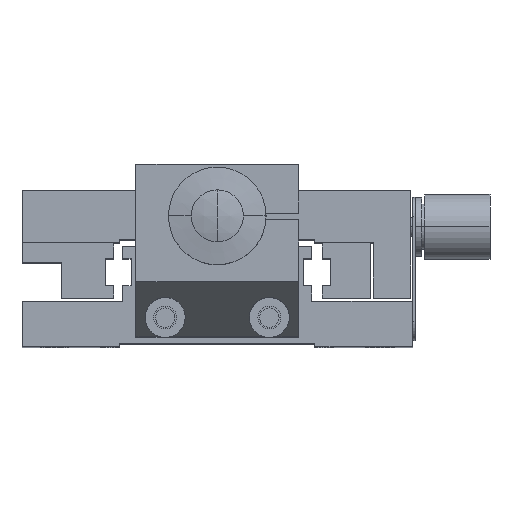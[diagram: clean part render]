
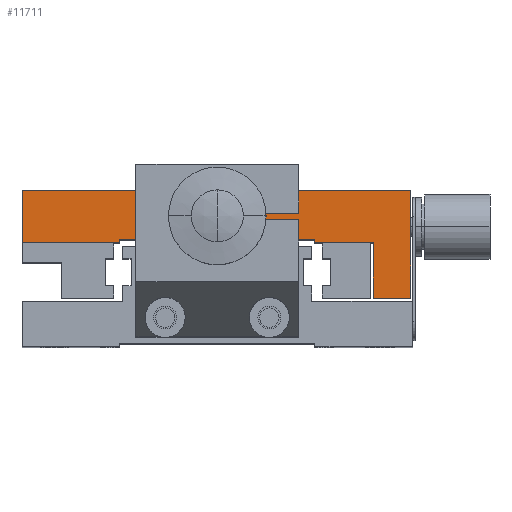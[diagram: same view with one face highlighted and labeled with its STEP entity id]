
A CAD part, top view. The second image highlights one B-rep face of the part: STEP entity #11711.
In plain terms, the highlighted planar face has unit normal (0, 0, 1).
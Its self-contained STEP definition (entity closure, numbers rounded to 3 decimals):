
#223 = EDGE_LOOP ( 'NONE', ( #692, #693 ) ) ;
#280 = EDGE_LOOP ( 'NONE', ( #694, #695, #696, #697, #698, #699, #700, #701, #702, #703 ) ) ;
#692 = ORIENTED_EDGE ( 'NONE', *, *, #1626, .F. ) ;
#693 = ORIENTED_EDGE ( 'NONE', *, *, #1559, .F. ) ;
#694 = ORIENTED_EDGE ( 'NONE', *, *, #1566, .T. ) ;
#695 = ORIENTED_EDGE ( 'NONE', *, *, #1570, .T. ) ;
#696 = ORIENTED_EDGE ( 'NONE', *, *, #1574, .T. ) ;
#697 = ORIENTED_EDGE ( 'NONE', *, *, #1577, .T. ) ;
#698 = ORIENTED_EDGE ( 'NONE', *, *, #1583, .T. ) ;
#699 = ORIENTED_EDGE ( 'NONE', *, *, #1588, .T. ) ;
#700 = ORIENTED_EDGE ( 'NONE', *, *, #1591, .T. ) ;
#701 = ORIENTED_EDGE ( 'NONE', *, *, #1600, .T. ) ;
#702 = ORIENTED_EDGE ( 'NONE', *, *, #1618, .T. ) ;
#703 = ORIENTED_EDGE ( 'NONE', *, *, #1625, .T. ) ;
#1244 = VERTEX_POINT ( 'NONE', #4287 ) ;
#1246 = VERTEX_POINT ( 'NONE', #4289 ) ;
#1247 = VERTEX_POINT ( 'NONE', #4290 ) ;
#1248 = VERTEX_POINT ( 'NONE', #4291 ) ;
#1249 = VERTEX_POINT ( 'NONE', #4292 ) ;
#1251 = VERTEX_POINT ( 'NONE', #4294 ) ;
#1253 = VERTEX_POINT ( 'NONE', #4296 ) ;
#1255 = VERTEX_POINT ( 'NONE', #4298 ) ;
#1256 = VERTEX_POINT ( 'NONE', #4299 ) ;
#1257 = VERTEX_POINT ( 'NONE', #4300 ) ;
#1261 = VERTEX_POINT ( 'NONE', #4304 ) ;
#1264 = VERTEX_POINT ( 'NONE', #4307 ) ;
#1559 = EDGE_CURVE ( 'NONE', #1244, #1246, #3701, .T. ) ;
#1566 = EDGE_CURVE ( 'NONE', #1248, #1247, #3714, .T. ) ;
#1570 = EDGE_CURVE ( 'NONE', #1247, #1249, #3718, .T. ) ;
#1574 = EDGE_CURVE ( 'NONE', #1249, #1251, #3728, .T. ) ;
#1577 = EDGE_CURVE ( 'NONE', #1251, #1255, #3731, .T. ) ;
#1583 = EDGE_CURVE ( 'NONE', #1255, #1256, #3743, .T. ) ;
#1588 = EDGE_CURVE ( 'NONE', #1256, #1257, #3751, .T. ) ;
#1591 = EDGE_CURVE ( 'NONE', #1257, #1261, #3754, .T. ) ;
#1600 = EDGE_CURVE ( 'NONE', #1261, #1253, #3769, .T. ) ;
#1618 = EDGE_CURVE ( 'NONE', #1253, #1264, #3786, .T. ) ;
#1625 = EDGE_CURVE ( 'NONE', #1264, #1248, #3802, .T. ) ;
#1626 = EDGE_CURVE ( 'NONE', #1246, #1244, #3804, .T. ) ;
#3283 = AXIS2_PLACEMENT_3D ( 'NONE', #5238, #5239, #5240 ) ;
#3319 = AXIS2_PLACEMENT_3D ( 'NONE', #5407, #5408, #5409 ) ;
#3701 = CIRCLE ( 'NONE', #3283, 1.5 ) ;
#3714 = LINE ( 'NONE', #5241, #3719 ) ;
#3718 = LINE ( 'NONE', #5255, #3727 ) ;
#3719 = VECTOR ( 'NONE', #5256, 1000. ) ;
#3727 = VECTOR ( 'NONE', #5263, 1000. ) ;
#3728 = LINE ( 'NONE', #5264, #3734 ) ;
#3731 = LINE ( 'NONE', #5265, #3740 ) ;
#3734 = VECTOR ( 'NONE', #5272, 1000. ) ;
#3740 = VECTOR ( 'NONE', #5278, 1000. ) ;
#3743 = LINE ( 'NONE', #5285, #3749 ) ;
#3749 = VECTOR ( 'NONE', #5293, 1000. ) ;
#3751 = LINE ( 'NONE', #5298, #3757 ) ;
#3754 = LINE ( 'NONE', #5291, #3763 ) ;
#3757 = VECTOR ( 'NONE', #5305, 1000. ) ;
#3763 = VECTOR ( 'NONE', #5310, 1000. ) ;
#3769 = LINE ( 'NONE', #5327, #3775 ) ;
#3775 = VECTOR ( 'NONE', #5334, 1000. ) ;
#3786 = LINE ( 'NONE', #5379, #3796 ) ;
#3796 = VECTOR ( 'NONE', #5386, 1000. ) ;
#3802 = LINE ( 'NONE', #5403, #3805 ) ;
#3804 = CIRCLE ( 'NONE', #3319, 1.5 ) ;
#3805 = VECTOR ( 'NONE', #5404, 1000. ) ;
#4287 = CARTESIAN_POINT ( 'NONE',  ( 28.5, 4., 60. ) ) ;
#4289 = CARTESIAN_POINT ( 'NONE',  ( 31.5, 4., 60. ) ) ;
#4290 = CARTESIAN_POINT ( 'NONE',  ( 15., 0., 60. ) ) ;
#4291 = CARTESIAN_POINT ( 'NONE',  ( 0., 0., 60. ) ) ;
#4292 = CARTESIAN_POINT ( 'NONE',  ( 15., 0.5, 60. ) ) ;
#4294 = CARTESIAN_POINT ( 'NONE',  ( 45., 0.5, 60. ) ) ;
#4296 = CARTESIAN_POINT ( 'NONE',  ( 59.7, 8., 60. ) ) ;
#4298 = CARTESIAN_POINT ( 'NONE',  ( 45., 0., 60. ) ) ;
#4299 = CARTESIAN_POINT ( 'NONE',  ( 54., 0., 60. ) ) ;
#4300 = CARTESIAN_POINT ( 'NONE',  ( 54., -8.5, 60. ) ) ;
#4304 = CARTESIAN_POINT ( 'NONE',  ( 59.7, -8.5, 60. ) ) ;
#4307 = CARTESIAN_POINT ( 'NONE',  ( 0., 8., 60. ) ) ;
#5238 = CARTESIAN_POINT ( 'NONE',  ( 30., 4., 60. ) ) ;
#5239 = DIRECTION ( 'NONE',  ( 0., 0., 1. ) ) ;
#5240 = DIRECTION ( 'NONE',  ( 1., 0., 0. ) ) ;
#5241 = CARTESIAN_POINT ( 'NONE',  ( 15., 0., 60. ) ) ;
#5255 = CARTESIAN_POINT ( 'NONE',  ( 15., 0.5, 60. ) ) ;
#5256 = DIRECTION ( 'NONE',  ( 1., 0., 0. ) ) ;
#5263 = DIRECTION ( 'NONE',  ( 0., 1., 0. ) ) ;
#5264 = CARTESIAN_POINT ( 'NONE',  ( 45., 0.5, 60. ) ) ;
#5265 = CARTESIAN_POINT ( 'NONE',  ( 45., 0., 60. ) ) ;
#5272 = DIRECTION ( 'NONE',  ( 1., 0., 0. ) ) ;
#5278 = DIRECTION ( 'NONE',  ( 0., -1., 0. ) ) ;
#5285 = CARTESIAN_POINT ( 'NONE',  ( 54., 0., 60. ) ) ;
#5291 = CARTESIAN_POINT ( 'NONE',  ( 59.7, -8.5, 60. ) ) ;
#5293 = DIRECTION ( 'NONE',  ( 1., 0., 0. ) ) ;
#5298 = CARTESIAN_POINT ( 'NONE',  ( 54., -8.5, 60. ) ) ;
#5305 = DIRECTION ( 'NONE',  ( 0., -1., 0. ) ) ;
#5310 = DIRECTION ( 'NONE',  ( 1., 0., 0. ) ) ;
#5327 = CARTESIAN_POINT ( 'NONE',  ( 59.7, 8., 60. ) ) ;
#5334 = DIRECTION ( 'NONE',  ( 0., 1., 0. ) ) ;
#5379 = CARTESIAN_POINT ( 'NONE',  ( 0., 8., 60. ) ) ;
#5386 = DIRECTION ( 'NONE',  ( -1., 0., 0. ) ) ;
#5403 = CARTESIAN_POINT ( 'NONE',  ( 0., 0., 60. ) ) ;
#5404 = DIRECTION ( 'NONE',  ( 0., -1., 0. ) ) ;
#5407 = CARTESIAN_POINT ( 'NONE',  ( 30., 4., 60. ) ) ;
#5408 = DIRECTION ( 'NONE',  ( 0., 0., 1. ) ) ;
#5409 = DIRECTION ( 'NONE',  ( 1., 0., 0. ) ) ;
#8288 = FACE_BOUND ( 'NONE', #223, .T. ) ;
#8292 = FACE_OUTER_BOUND ( 'NONE', #280, .T. ) ;
#8910 = CARTESIAN_POINT ( 'NONE',  ( 0., 0., 60. ) ) ;
#8914 = PLANE ( 'NONE',  #9248 ) ;
#8918 = DIRECTION ( 'NONE',  ( 0., 0., -1. ) ) ;
#8919 = DIRECTION ( 'NONE',  ( -1., 0., 0. ) ) ;
#9248 = AXIS2_PLACEMENT_3D ( 'NONE', #8910, #8918, #8919 ) ;
#11711 = ADVANCED_FACE ( 'NONE', ( #8288, #8292 ), #8914, .F. ) ;
